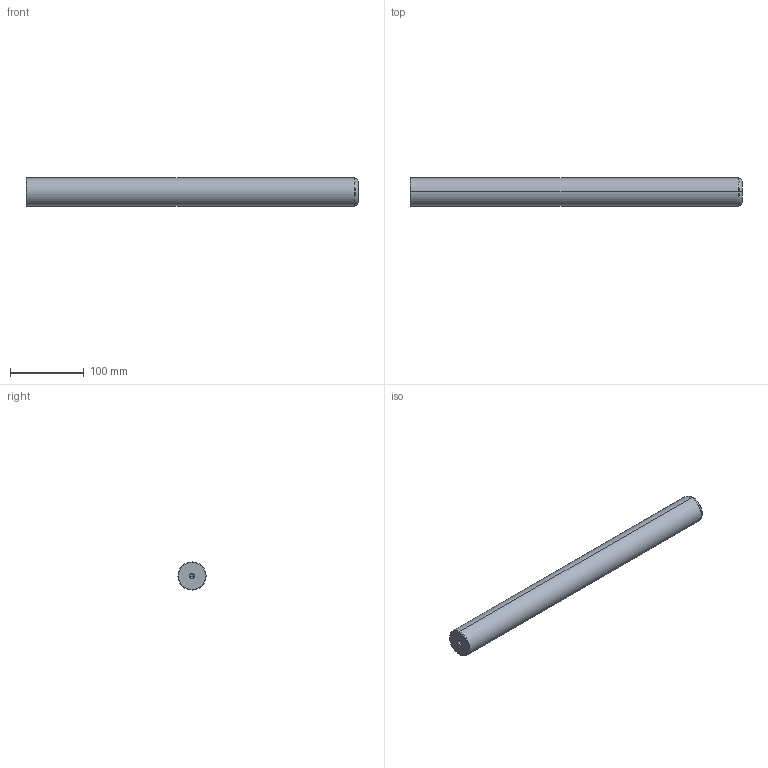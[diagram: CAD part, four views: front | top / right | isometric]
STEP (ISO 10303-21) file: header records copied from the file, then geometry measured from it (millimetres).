
FILE_DESCRIPTION(('CATIA V5 STEP Exchange'),'2;1');
FILE_NAME('C:\Users\Utente\Desktop\IO LAVORO\3D X SITO CF\X SITO\720\720-38x450.stp','2021-01-01T11:59:28+00:00',('none'),('none'),'CATIA Version 5 Release 20 GA (IN-10)','CATIA V5 STEP AP203','none');
FILE_SCHEMA(('CONFIG_CONTROL_DESIGN'));
Length unit declared in the file: millimetre
Products named in the file (1): 720-38x450
Bounding box: 450 x 38 x 38 mm (x, y, z)
Volume: 508012.1 mm3; surface area: 56676 mm2
Topology: 1 solids, 1 shells, 22 faces, 62 edges, 40 vertices
Faces by surface type: cone 12, cylinder 6, plane 2, torus 2
Entity records: 806 total; most frequent: CARTESIAN_POINT 229, ORIENTED_EDGE 116, DIRECTION 93, EDGE_CURVE 58, AXIS2_PLACEMENT_3D 54, VERTEX_POINT 40, CIRCLE 31, EDGE_LOOP 24
